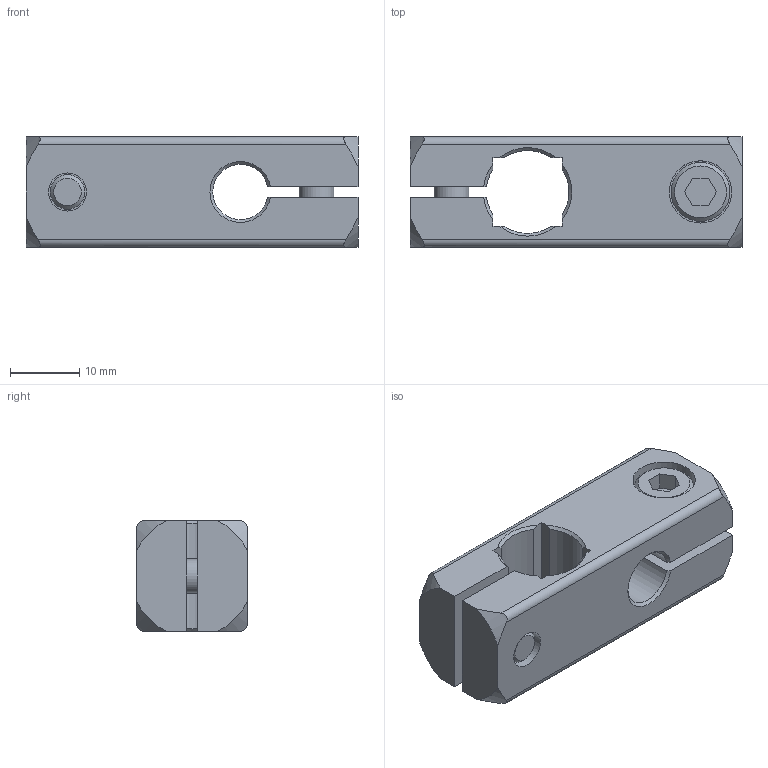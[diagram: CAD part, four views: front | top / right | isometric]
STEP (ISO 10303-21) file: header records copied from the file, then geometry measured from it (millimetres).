
FILE_DESCRIPTION( ( 'STEP AP203' ), '1' );
FILE_NAME( 'C:/Temp/Ganter_Step_05_03_2020/data/3_7/gn_474/Two-way clamp mounting GN 474-B12-B8-ELS.stp', '2020-03-12T14:44:44', ( 'License CC BY-ND 4.0' ), ( 'CADENAS' ), ' ', 'PARTsolutions', ' ' );
FILE_SCHEMA( ( 'CONFIG_CONTROL_DESIGN' ) );
Length unit declared in the file: millimetre
Products named in the file (1): _Two-way clamp mounting GN 474-B12-B8-ELS
Bounding box: 48 x 16 x 16 mm (x, y, z)
Volume: 8672.3 mm3; surface area: 5905.3 mm2
Topology: 1 solids, 1 shells, 86 faces, 220 edges, 146 vertices
Faces by surface type: plane 42, cone 24, cylinder 20
Full cylindrical faces by diameter (mm): 5 x2, 5.5 x4, 8.5 x2, 9 x2
Entity records: 2712 total; most frequent: CARTESIAN_POINT 675, ORIENTED_EDGE 408, DIRECTION 386, EDGE_CURVE 204, VERTEX_POINT 144, AXIS2_PLACEMENT_3D 143, EDGE_LOOP 114, LINE 100
